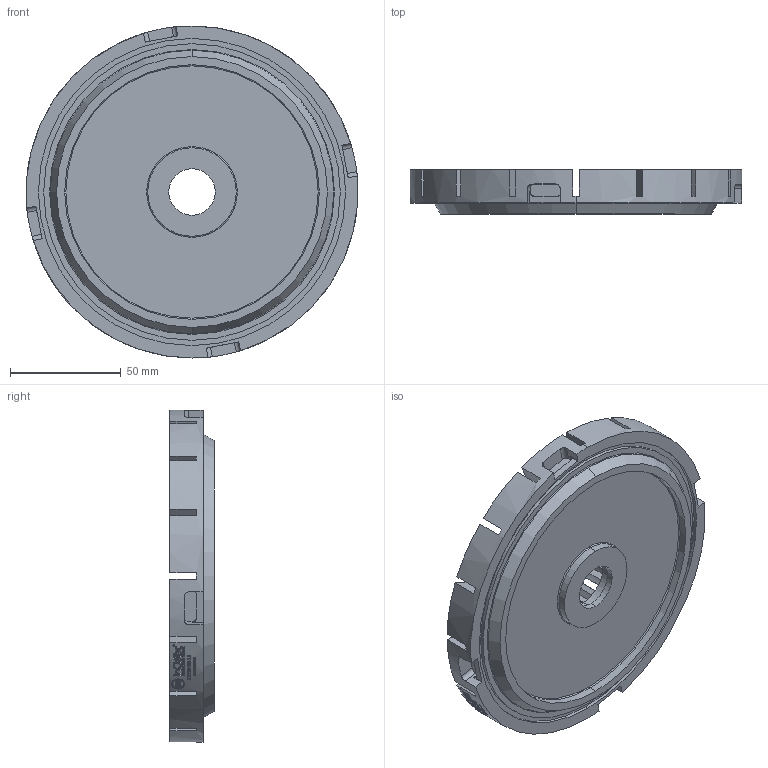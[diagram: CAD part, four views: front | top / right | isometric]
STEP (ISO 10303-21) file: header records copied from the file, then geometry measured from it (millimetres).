
FILE_DESCRIPTION (( 'STEP AP203' ), '1' );
FILE_NAME ('CR150 SH-15.STEP', '2016-06-15T08:27:13', ( '' ), ( '' ), 'SwSTEP 2.0', 'SolidWorks 2016', '' );
FILE_SCHEMA (( 'CONFIG_CONTROL_DESIGN' ));
Length unit declared in the file: millimetre
Products named in the file (1): CR150 SH-15
Bounding box: 150 x 20 x 150 mm (x, y, z)
Volume: 239557.9 mm3; surface area: 70827.9 mm2
Topology: 1 solids, 1 shells, 2037 faces, 5810 edges, 3872 vertices
Faces by surface type: plane 1646, cylinder 381, torus 8, cone 2
Entity records: 66999 total; most frequent: CARTESIAN_POINT 17393, ORIENTED_EDGE 11620, DIRECTION 8912, EDGE_CURVE 5810, VERTEX_POINT 3872, VECTOR 3672, LINE 3672, AXIS2_PLACEMENT_3D 2620
